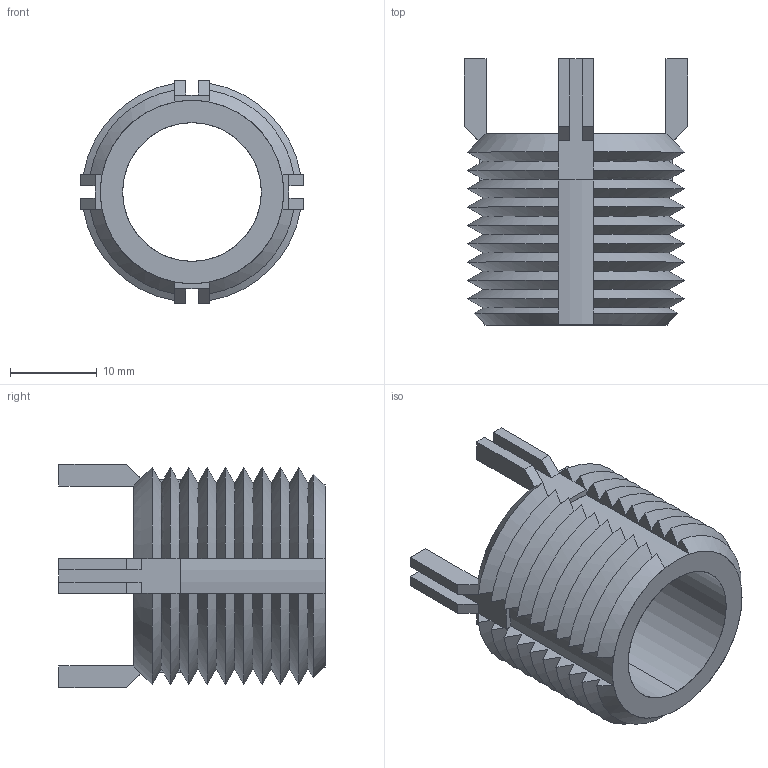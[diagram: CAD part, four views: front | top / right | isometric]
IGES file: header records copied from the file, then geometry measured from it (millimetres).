
Start section: SolidWorks IGES file using analytic representation for surfaces
Global section: file name: C:\Users\IanO\Desktop\TR1530_v2\TR1530_v2_20230501_IGES\TR1530.66649.igs; native system: SolidWorks 2019; preprocessor: SolidWorks 2019; author: IanO; date: 230502.140435; units: millimetre
Bounding box: 25.78 x 30.75 x 25.78 mm (x, y, z)
Surface area: 4993.2 mm2 (no closed solid volume)
Topology: 0 solids, 0 shells, 176 faces, 1056 edges, 1056 vertices
Faces by surface type: bspline 90, revolution 86
